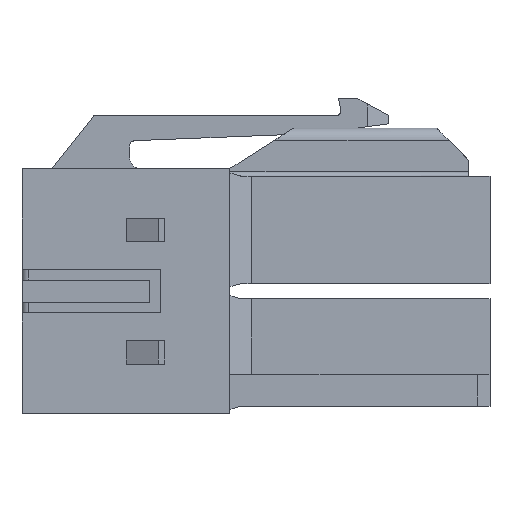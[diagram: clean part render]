
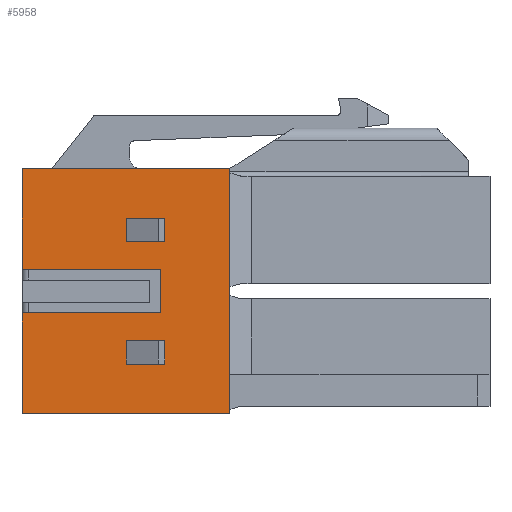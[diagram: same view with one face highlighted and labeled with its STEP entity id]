
A CAD part, left-side view. The second image highlights one B-rep face of the part: STEP entity #5958.
In plain terms, the highlighted planar face has unit normal (-1, 0, 0).
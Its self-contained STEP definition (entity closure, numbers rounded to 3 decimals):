
#1=DIRECTION('',(0.,1.,0.));
#2=VECTOR('',#1,9.75);
#3=CARTESIAN_POINT('',(-9.67,-4.875,-5.75));
#4=LINE('',#3,#2);
#13=DIRECTION('',(0.,1.,0.));
#14=VECTOR('',#13,9.75);
#15=CARTESIAN_POINT('',(-9.67,-4.875,5.75));
#16=LINE('',#15,#14);
#17=DIRECTION('',(0.,0.,1.));
#18=VECTOR('',#17,11.5);
#19=CARTESIAN_POINT('',(-9.67,-4.875,-5.75));
#20=LINE('',#19,#18);
#21=DIRECTION('',(0.,0.,-1.));
#22=VECTOR('',#21,4.73);
#23=CARTESIAN_POINT('',(-9.67,4.875,-1.02));
#24=LINE('',#23,#22);
#25=DIRECTION('',(0.,1.,0.));
#26=VECTOR('',#25,6.5);
#27=CARTESIAN_POINT('',(-9.67,-1.625,-1.02));
#28=LINE('',#27,#26);
#29=DIRECTION('',(0.,-1.,0.));
#30=VECTOR('',#29,1.701);
#31=CARTESIAN_POINT('',(-9.67,-0.024,-2.32));
#32=LINE('',#31,#30);
#33=DIRECTION('',(0.,0.,1.));
#34=VECTOR('',#33,1.1);
#35=CARTESIAN_POINT('',(-9.67,-0.024,-3.42));
#36=LINE('',#35,#34);
#37=DIRECTION('',(0.,-1.,0.));
#38=VECTOR('',#37,1.701);
#39=CARTESIAN_POINT('',(-9.67,-0.024,3.42));
#40=LINE('',#39,#38);
#53=DIRECTION('',(0.,0.,1.));
#54=VECTOR('',#53,4.73);
#55=CARTESIAN_POINT('',(-9.67,4.875,1.02));
#56=LINE('',#55,#54);
#2322=DIRECTION('',(0.,1.,0.));
#2323=VECTOR('',#2322,6.5);
#2324=CARTESIAN_POINT('',(-9.67,-1.625,1.02));
#2325=LINE('',#2324,#2323);
#2371=DIRECTION('',(0.,0.,1.));
#2372=VECTOR('',#2371,2.04);
#2373=CARTESIAN_POINT('',(-9.67,-1.625,-1.02));
#2374=LINE('',#2373,#2372);
#4397=DIRECTION('',(0.,-1.,0.));
#4398=VECTOR('',#4397,1.701);
#4399=CARTESIAN_POINT('',(-9.67,-0.024,-3.42));
#4400=LINE('',#4399,#4398);
#4409=DIRECTION('',(0.,0.,1.));
#4410=VECTOR('',#4409,1.1);
#4411=CARTESIAN_POINT('',(-9.67,-1.725,-3.42));
#4412=LINE('',#4411,#4410);
#4433=DIRECTION('',(0.,0.,1.));
#4434=VECTOR('',#4433,1.1);
#4435=CARTESIAN_POINT('',(-9.67,-1.725,2.32));
#4436=LINE('',#4435,#4434);
#4445=DIRECTION('',(0.,0.,-1.));
#4446=VECTOR('',#4445,1.1);
#4447=CARTESIAN_POINT('',(-9.67,-0.024,3.42));
#4448=LINE('',#4447,#4446);
#4453=DIRECTION('',(0.,-1.,0.));
#4454=VECTOR('',#4453,1.701);
#4455=CARTESIAN_POINT('',(-9.67,-0.024,2.32));
#4456=LINE('',#4455,#4454);
#4478=CARTESIAN_POINT('',(-9.67,-4.875,-5.75));
#4480=VERTEX_POINT('',#4478);
#4483=CARTESIAN_POINT('',(-9.67,4.875,-5.75));
#4484=VERTEX_POINT('',#4483);
#4921=CARTESIAN_POINT('',(-9.67,-0.024,3.42));
#4922=CARTESIAN_POINT('',(-9.67,-0.024,2.32));
#4923=VERTEX_POINT('',#4921);
#4924=VERTEX_POINT('',#4922);
#4943=CARTESIAN_POINT('',(-9.67,-1.725,2.32));
#4944=VERTEX_POINT('',#4943);
#5035=CARTESIAN_POINT('',(-9.67,-1.725,-3.42));
#5036=CARTESIAN_POINT('',(-9.67,-1.725,-2.32));
#5037=VERTEX_POINT('',#5035);
#5038=VERTEX_POINT('',#5036);
#5039=CARTESIAN_POINT('',(-9.67,-0.024,-2.32));
#5040=VERTEX_POINT('',#5039);
#5041=CARTESIAN_POINT('',(-9.67,-0.024,-3.42));
#5042=VERTEX_POINT('',#5041);
#5043=CARTESIAN_POINT('',(-9.67,-1.725,3.42));
#5044=VERTEX_POINT('',#5043);
#5045=CARTESIAN_POINT('',(-9.67,-4.875,5.75));
#5046=CARTESIAN_POINT('',(-9.67,4.875,5.75));
#5047=VERTEX_POINT('',#5045);
#5048=VERTEX_POINT('',#5046);
#5049=CARTESIAN_POINT('',(-9.67,4.875,-1.02));
#5050=VERTEX_POINT('',#5049);
#5051=CARTESIAN_POINT('',(-9.67,-1.625,-1.02));
#5052=VERTEX_POINT('',#5051);
#5053=CARTESIAN_POINT('',(-9.67,-1.625,1.02));
#5054=VERTEX_POINT('',#5053);
#5055=CARTESIAN_POINT('',(-9.67,4.875,1.02));
#5056=VERTEX_POINT('',#5055);
#5916=CARTESIAN_POINT('',(-9.67,4.968,-5.98));
#5917=DIRECTION('',(-1.,0.,0.));
#5918=DIRECTION('',(0.,1.,0.));
#5919=AXIS2_PLACEMENT_3D('',#5916,#5917,#5918);
#5920=PLANE('',#5919);
#5922=ORIENTED_EDGE('',*,*,#5921,.T.);
#5924=ORIENTED_EDGE('',*,*,#5923,.F.);
#5926=ORIENTED_EDGE('',*,*,#5925,.F.);
#5927=ORIENTED_EDGE('',*,*,#5905,.T.);
#5929=ORIENTED_EDGE('',*,*,#5928,.F.);
#5931=ORIENTED_EDGE('',*,*,#5930,.F.);
#5933=ORIENTED_EDGE('',*,*,#5932,.T.);
#5935=ORIENTED_EDGE('',*,*,#5934,.T.);
#5936=EDGE_LOOP('',(#5922,#5924,#5926,#5927,#5929,#5931,#5933,#5935));
#5937=FACE_OUTER_BOUND('',#5936,.F.);
#5939=ORIENTED_EDGE('',*,*,#5938,.T.);
#5941=ORIENTED_EDGE('',*,*,#5940,.T.);
#5943=ORIENTED_EDGE('',*,*,#5942,.F.);
#5945=ORIENTED_EDGE('',*,*,#5944,.F.);
#5946=EDGE_LOOP('',(#5939,#5941,#5943,#5945));
#5947=FACE_BOUND('',#5946,.F.);
#5949=ORIENTED_EDGE('',*,*,#5948,.T.);
#5951=ORIENTED_EDGE('',*,*,#5950,.F.);
#5953=ORIENTED_EDGE('',*,*,#5952,.T.);
#5955=ORIENTED_EDGE('',*,*,#5954,.T.);
#5956=EDGE_LOOP('',(#5949,#5951,#5953,#5955));
#5957=FACE_BOUND('',#5956,.F.);
#5958=ADVANCED_FACE('',(#5937,#5947,#5957),#5920,.T.);
#5905=EDGE_CURVE('',#4480,#4484,#4,.T.);
#5921=EDGE_CURVE('',#5056,#5048,#56,.T.);
#5923=EDGE_CURVE('',#5047,#5048,#16,.T.);
#5925=EDGE_CURVE('',#4480,#5047,#20,.T.);
#5928=EDGE_CURVE('',#5050,#4484,#24,.T.);
#5930=EDGE_CURVE('',#5052,#5050,#28,.T.);
#5932=EDGE_CURVE('',#5052,#5054,#2374,.T.);
#5934=EDGE_CURVE('',#5054,#5056,#2325,.T.);
#5938=EDGE_CURVE('',#5042,#5037,#4400,.T.);
#5940=EDGE_CURVE('',#5037,#5038,#4412,.T.);
#5942=EDGE_CURVE('',#5040,#5038,#32,.T.);
#5944=EDGE_CURVE('',#5042,#5040,#36,.T.);
#5948=EDGE_CURVE('',#4944,#5044,#4436,.T.);
#5950=EDGE_CURVE('',#4923,#5044,#40,.T.);
#5952=EDGE_CURVE('',#4923,#4924,#4448,.T.);
#5954=EDGE_CURVE('',#4924,#4944,#4456,.T.);
